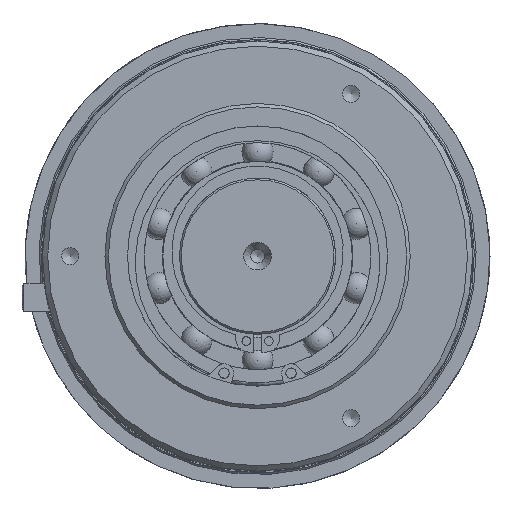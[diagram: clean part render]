
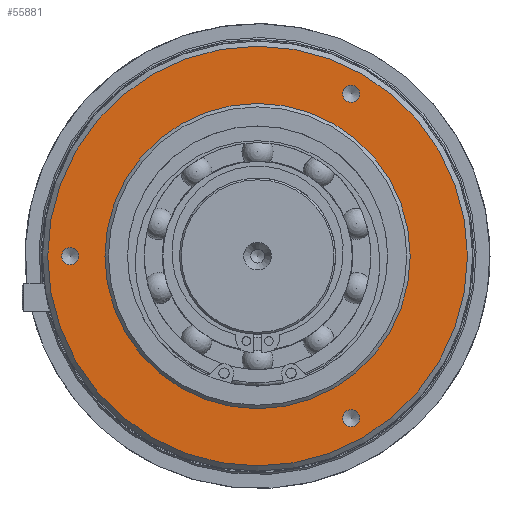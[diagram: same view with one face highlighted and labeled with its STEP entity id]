
A CAD part, left-side view. The second image highlights one B-rep face of the part: STEP entity #55881.
In plain terms, the highlighted planar face has unit normal (-1, 0, 0).
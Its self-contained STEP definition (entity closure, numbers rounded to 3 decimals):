
#4164=FACE_BOUND('',#8691,.T.);
#4165=FACE_BOUND('',#8692,.T.);
#4166=FACE_BOUND('',#8693,.T.);
#4167=FACE_BOUND('',#8694,.T.);
#5813=FACE_OUTER_BOUND('',#8690,.T.);
#8690=EDGE_LOOP('',(#37803));
#8691=EDGE_LOOP('',(#37804));
#8692=EDGE_LOOP('',(#37805));
#8693=EDGE_LOOP('',(#37806));
#8694=EDGE_LOOP('',(#37807));
#10689=CIRCLE('',#57715,2.459);
#10691=CIRCLE('',#57719,2.459);
#10693=CIRCLE('',#57723,2.459);
#11235=CIRCLE('',#60967,60.5);
#11236=CIRCLE('',#60969,44.);
#18036=VERTEX_POINT('',#85245);
#18038=VERTEX_POINT('',#85251);
#18040=VERTEX_POINT('',#85257);
#20202=VERTEX_POINT('',#91743);
#20203=VERTEX_POINT('',#91746);
#23786=EDGE_CURVE('',#18036,#18036,#10689,.T.);
#23788=EDGE_CURVE('',#18038,#18038,#10691,.T.);
#23790=EDGE_CURVE('',#18040,#18040,#10693,.T.);
#27032=EDGE_CURVE('',#20202,#20202,#11235,.T.);
#27033=EDGE_CURVE('',#20203,#20203,#11236,.T.);
#37803=ORIENTED_EDGE('',*,*,#27032,.F.);
#37804=ORIENTED_EDGE('',*,*,#23786,.T.);
#37805=ORIENTED_EDGE('',*,*,#23788,.T.);
#37806=ORIENTED_EDGE('',*,*,#23790,.T.);
#37807=ORIENTED_EDGE('',*,*,#27033,.T.);
#50677=PLANE('',#60968);
#55881=ADVANCED_FACE('',(#5813,#4164,#4165,#4166,#4167),#50677,.T.);
#57715=AXIS2_PLACEMENT_3D('',#85246,#66036,#66037);
#57719=AXIS2_PLACEMENT_3D('',#85252,#66044,#66045);
#57723=AXIS2_PLACEMENT_3D('',#85258,#66052,#66053);
#60967=AXIS2_PLACEMENT_3D('',#91744,#73620,#73621);
#60968=AXIS2_PLACEMENT_3D('',#91745,#73622,#73623);
#60969=AXIS2_PLACEMENT_3D('',#91747,#73624,#73625);
#66036=DIRECTION('center_axis',(1.,0.,0.));
#66037=DIRECTION('ref_axis',(0.,0.,1.));
#66044=DIRECTION('center_axis',(1.,0.,0.));
#66045=DIRECTION('ref_axis',(0.,0.,1.));
#66052=DIRECTION('center_axis',(1.,0.,0.));
#66053=DIRECTION('ref_axis',(0.,0.,1.));
#73620=DIRECTION('center_axis',(1.,0.,0.));
#73621=DIRECTION('ref_axis',(0.,-1.,0.));
#73622=DIRECTION('center_axis',(-1.,0.,0.));
#73623=DIRECTION('ref_axis',(0.,0.,1.));
#73624=DIRECTION('center_axis',(1.,0.,0.));
#73625=DIRECTION('ref_axis',(0.,1.,0.));
#85245=CARTESIAN_POINT('',(-30.5,-27.,49.224));
#85246=CARTESIAN_POINT('Origin',(-30.5,-27.,46.765));
#85251=CARTESIAN_POINT('',(-30.5,-27.,-44.307));
#85252=CARTESIAN_POINT('Origin',(-30.5,-27.,-46.765));
#85257=CARTESIAN_POINT('',(-30.5,54.,2.459));
#85258=CARTESIAN_POINT('Origin',(-30.5,54.,0.));
#91743=CARTESIAN_POINT('',(-30.5,60.5,0.));
#91744=CARTESIAN_POINT('Origin',(-30.5,0.,0.));
#91745=CARTESIAN_POINT('Origin',(-30.5,53.,0.));
#91746=CARTESIAN_POINT('',(-30.5,44.,0.));
#91747=CARTESIAN_POINT('Origin',(-30.5,0.,0.));
